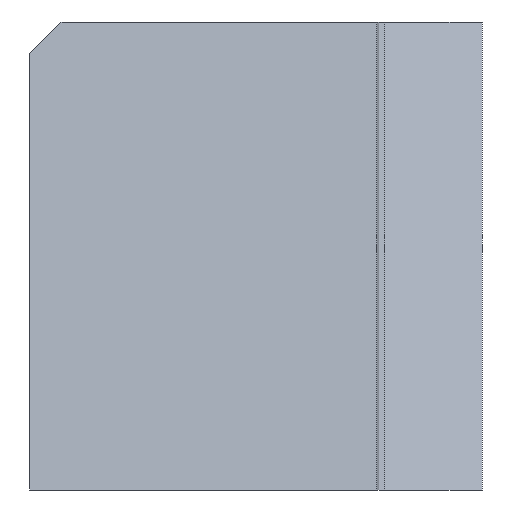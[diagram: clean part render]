
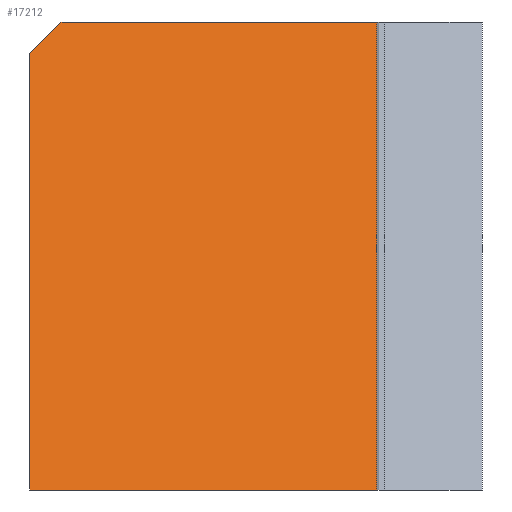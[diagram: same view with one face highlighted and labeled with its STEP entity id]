
A CAD part, left-side view. The second image highlights one B-rep face of the part: STEP entity #17212.
In plain terms, the highlighted planar face has unit normal (-0.943, 0, 0.334).
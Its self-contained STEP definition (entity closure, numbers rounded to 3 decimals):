
#2323=ORIENTED_EDGE('',*,*,#7553,.F.);
#2324=ORIENTED_EDGE('',*,*,#7554,.T.);
#2325=ORIENTED_EDGE('',*,*,#6218,.F.);
#2326=ORIENTED_EDGE('',*,*,#7555,.F.);
#2327=ORIENTED_EDGE('',*,*,#6950,.F.);
#6218=EDGE_CURVE('',#8833,#8834,#10556,.T.);
#6950=EDGE_CURVE('',#9564,#9566,#11049,.T.);
#7553=EDGE_CURVE('',#10168,#9564,#11452,.T.);
#7554=EDGE_CURVE('',#10168,#8834,#11453,.T.);
#7555=EDGE_CURVE('',#9566,#8833,#11454,.T.);
#8833=VERTEX_POINT('',#23432);
#8834=VERTEX_POINT('',#23433);
#9564=VERTEX_POINT('',#26184);
#9566=VERTEX_POINT('',#26187);
#10168=VERTEX_POINT('',#27393);
#10556=LINE('',#23431,#12605);
#11049=LINE('',#26186,#13098);
#11452=LINE('',#27392,#13501);
#11453=LINE('',#27394,#13502);
#11454=LINE('',#27395,#13503);
#12605=VECTOR('',#19108,1000.);
#13098=VECTOR('',#19607,1000.);
#13501=VECTOR('',#20412,1000.);
#13502=VECTOR('',#20413,1000.);
#13503=VECTOR('',#20414,1000.);
#14605=EDGE_LOOP('',(#2323,#2324,#2325,#2326,#2327));
#15604=FACE_BOUND('',#14605,.T.);
#16562=PLANE('',#18360);
#17212=ADVANCED_FACE('',(#15604),#16562,.T.);
#18360=AXIS2_PLACEMENT_3D('',#27391,#20410,#20411);
#19108=DIRECTION('',(0.,1.,0.));
#19607=DIRECTION('',(0.,-1.,0.));
#20410=DIRECTION('',(-0.942,0.,0.334));
#20411=DIRECTION('',(0.,1.,0.));
#20412=DIRECTION('',(0.243,-0.686,0.686));
#20413=DIRECTION('',(-0.334,0.,-0.942));
#20414=DIRECTION('',(-0.334,0.,-0.942));
#23431=CARTESIAN_POINT('',(-10.64,-22.25,-30.));
#23432=CARTESIAN_POINT('',(-10.64,-22.25,-30.));
#23433=CARTESIAN_POINT('',(-10.64,0.,-30.));
#26184=CARTESIAN_POINT('',(0.,-2.,0.));
#26186=CARTESIAN_POINT('',(0.,0.,0.));
#26187=CARTESIAN_POINT('',(0.,-22.25,0.));
#27391=CARTESIAN_POINT('',(0.,-22.25,0.));
#27392=CARTESIAN_POINT('',(1.596,-6.501,4.501));
#27393=CARTESIAN_POINT('',(-0.709,0.,-2.));
#27394=CARTESIAN_POINT('',(0.,0.,0.));
#27395=CARTESIAN_POINT('',(0.,-22.25,0.));
